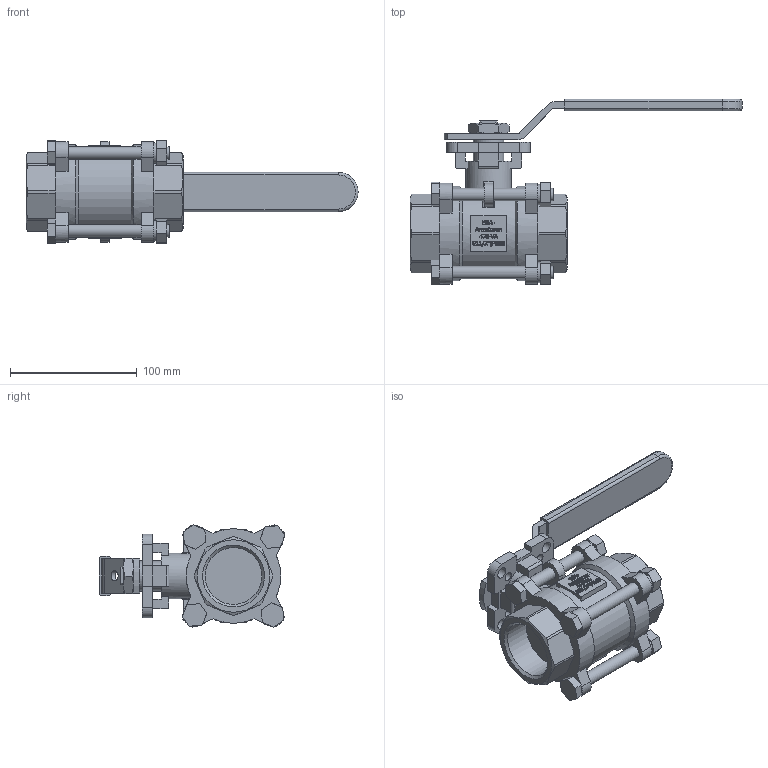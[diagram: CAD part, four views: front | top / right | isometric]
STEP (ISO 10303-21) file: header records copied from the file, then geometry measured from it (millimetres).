
FILE_DESCRIPTION((''),'2;1');
FILE_NAME('K:\Inventor\1 Artikel\11) Muffen-Kugelhähne\11a) manuell\Econosto\470-VA, 7444ISO\470-VA, G1,5\470-VA, G1,5, 3D\470-VA, G1,5, PN68, HH, 3D.stp','2019-10-24T09:37:49',('claudia'),(''),'Autodesk Inventor 2013','Autodesk Inventor 2013','');
FILE_SCHEMA(('AUTOMOTIVE_DESIGN { 1 0 10303 214 1 1 1 1 }'));
Length unit declared in the file: millimetre
Products named in the file (1): Bauteil5
Bounding box: 262 x 146.64 x 81.07 mm (x, y, z)
Volume: 482524.2 mm3; surface area: 114384.1 mm2
Topology: 2 solids, 3 shells, 1455 faces, 3911 edges, 2587 vertices
Faces by surface type: plane 892, bspline 461, cylinder 76, cone 18, torus 8
Full cylindrical faces by diameter (mm): 7 x4, 8 x2, 9 x4, 10 x8, 10.5 x2, 16 x4, 24 x1, 36 x1, 40 x1, 44.845 x2, 49.809 x4, 59.809 x2, 68 x1, 74.6 x2
Entity records: 48917 total; most frequent: CARTESIAN_POINT 15738, ORIENTED_EDGE 7708, DIRECTION 5091, EDGE_CURVE 3854, VECTOR 2627, LINE 2627, VERTEX_POINT 2575, EDGE_LOOP 1667
